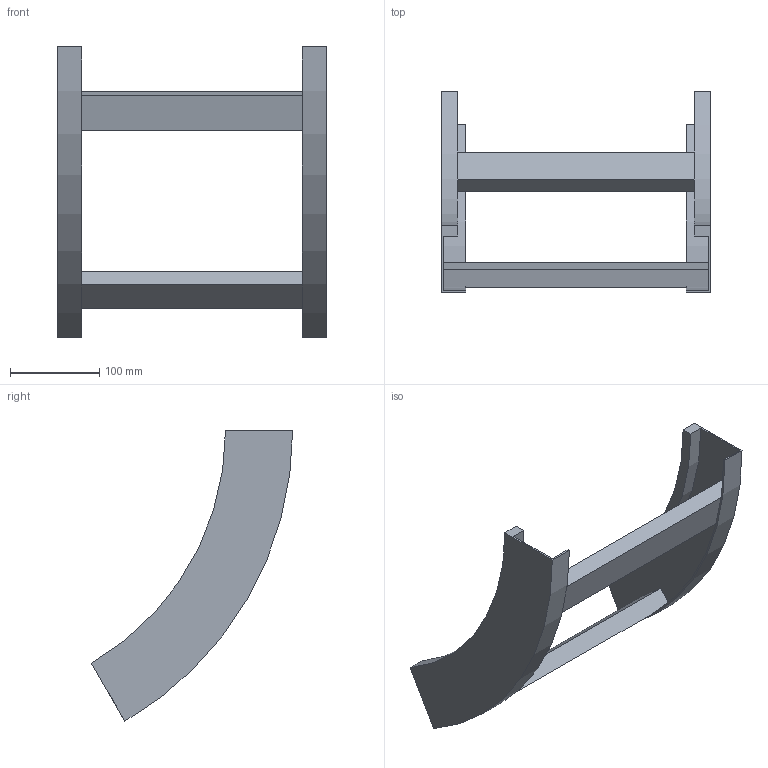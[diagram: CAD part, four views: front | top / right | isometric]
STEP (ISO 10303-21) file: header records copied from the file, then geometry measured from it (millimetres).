
FILE_DESCRIPTION (( 'STEP AP214' ), '1' );
FILE_NAME ('B2X40B3C300XX.step', '2025-03-20T10:17:49', ( '' ), ( '' ), 'SwSTEP 2.0', 'SolidWorks 2023', '' );
FILE_SCHEMA (( 'AUTOMOTIVE_DESIGN' ));
Length unit declared in the file: millimetre
Products named in the file (3): B2X40B3C300XX; TRAVERSINO_300; B2_LONGH.SALITA_60°_H75_R300
Assembly tree (4 placements, depth 2):
  B2X40B3C300XX
    B2_LONGH.SALITA_60°_H75_R300  x2
    TRAVERSINO_300  x2
Bounding box: 300 x 225 x 324.76 mm (x, y, z)
Volume: 747763.8 mm3; surface area: 244969.7 mm2
Topology: 4 solids, 4 shells, 32 faces, 72 edges, 48 vertices
Faces by surface type: plane 24, cylinder 8
Entity records: 552 total; most frequent: DIRECTION 90, CARTESIAN_POINT 83, ORIENTED_EDGE 72, EDGE_CURVE 36, AXIS2_PLACEMENT_3D 31, LINE 28, VECTOR 28, VERTEX_POINT 24
